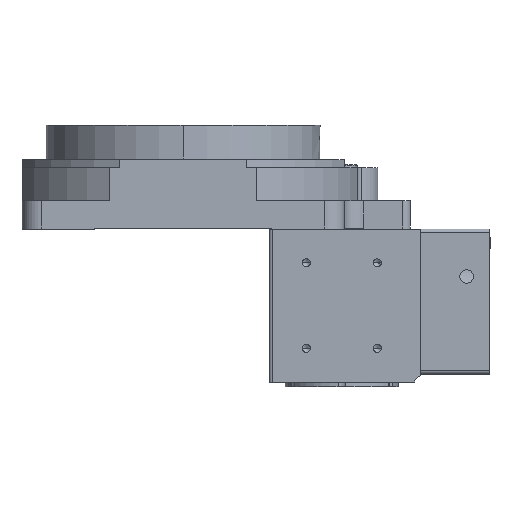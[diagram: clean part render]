
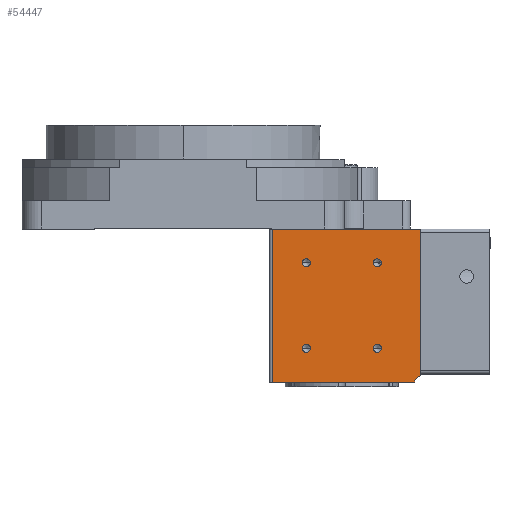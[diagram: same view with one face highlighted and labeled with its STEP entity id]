
A CAD part, left-side view. The second image highlights one B-rep face of the part: STEP entity #54447.
In plain terms, the highlighted planar face has unit normal (-1, 0, 0) as drawn and (0, 1, 0) by its records, which use the part's own axes.
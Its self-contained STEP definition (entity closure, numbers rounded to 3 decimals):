
#952 = ORIENTED_EDGE ( 'NONE', *, *, #28111, .F. ) ;
#1372 = CARTESIAN_POINT ( 'NONE',  ( -16.743, 29.514, 20.5 ) ) ;
#1504 = EDGE_CURVE ( 'NONE', #16750, #43295, #50282, .T. ) ;
#2556 = DIRECTION ( 'NONE',  ( 0., 0., 1. ) ) ;
#2773 = EDGE_CURVE ( 'NONE', #49916, #22614, #46120, .T. ) ;
#3115 = CARTESIAN_POINT ( 'NONE',  ( -37.743, 29.514, 94. ) ) ;
#3506 = EDGE_CURVE ( 'NONE', #6971, #10186, #27572, .T. ) ;
#3962 = AXIS2_PLACEMENT_3D ( 'NONE', #28954, #64930, #34130 ) ;
#4326 = LINE ( 'NONE', #50407, #16380 ) ;
#6145 = VECTOR ( 'NONE', #13203, 1000. ) ;
#6165 = CARTESIAN_POINT ( 'NONE',  ( -16.743, 29.514, 67. ) ) ;
#6367 = FACE_BOUND ( 'NONE', #56192, .T. ) ;
#6490 = EDGE_LOOP ( 'NONE', ( #31296, #35413 ) ) ;
#6971 = VERTEX_POINT ( 'NONE', #24464 ) ;
#7029 = ORIENTED_EDGE ( 'NONE', *, *, #14005, .F. ) ;
#7348 = CARTESIAN_POINT ( 'NONE',  ( -16.743, 29.514, 69.5 ) ) ;
#7706 = ORIENTED_EDGE ( 'NONE', *, *, #28801, .F. ) ;
#8002 = FACE_BOUND ( 'NONE', #35324, .T. ) ;
#8206 = DIRECTION ( 'NONE',  ( 1., 0., 0. ) ) ;
#9444 = DIRECTION ( 'NONE',  ( 0., 0., 1. ) ) ;
#10186 = VERTEX_POINT ( 'NONE', #1372 ) ;
#11343 = DIRECTION ( 'NONE',  ( 0., 0., 1. ) ) ;
#11710 = AXIS2_PLACEMENT_3D ( 'NONE', #50222, #19546, #55406 ) ;
#11923 = CARTESIAN_POINT ( 'NONE',  ( 36.257, 29.514, 67. ) ) ;
#11942 = CARTESIAN_POINT ( 'NONE',  ( -37.743, 29.514, 94. ) ) ;
#12149 = CARTESIAN_POINT ( 'NONE',  ( -16.743, 29.514, 23. ) ) ;
#12811 = ORIENTED_EDGE ( 'NONE', *, *, #1504, .F. ) ;
#13203 = DIRECTION ( 'NONE',  ( 0., 0., -1. ) ) ;
#13440 = VERTEX_POINT ( 'NONE', #41773 ) ;
#13845 = DIRECTION ( 'NONE',  ( 0., 1., 0. ) ) ;
#14005 = EDGE_CURVE ( 'NONE', #13440, #66194, #29249, .T. ) ;
#14889 = EDGE_LOOP ( 'NONE', ( #7706, #45117, #26603, #36113, #53136 ) ) ;
#15086 = CARTESIAN_POINT ( 'NONE',  ( -16.743, 29.514, 23. ) ) ;
#15482 = CARTESIAN_POINT ( 'NONE',  ( -16.743, 29.514, 64.5 ) ) ;
#16380 = VECTOR ( 'NONE', #9444, 1000. ) ;
#16604 = CIRCLE ( 'NONE', #30333, 2.5 ) ;
#16750 = VERTEX_POINT ( 'NONE', #37127 ) ;
#17099 = DIRECTION ( 'NONE',  ( 0., 0., -1. ) ) ;
#17116 = AXIS2_PLACEMENT_3D ( 'NONE', #12149, #17979, #39355 ) ;
#17932 = VERTEX_POINT ( 'NONE', #47350 ) ;
#17979 = DIRECTION ( 'NONE',  ( 0., 1., 0. ) ) ;
#18281 = CARTESIAN_POINT ( 'NONE',  ( -37.743, 29.514, 2. ) ) ;
#18863 = DIRECTION ( 'NONE',  ( 0., 1., 0. ) ) ;
#18933 = CARTESIAN_POINT ( 'NONE',  ( -33.844, 29.514, 94. ) ) ;
#18949 = VECTOR ( 'NONE', #54085, 1000. ) ;
#19546 = DIRECTION ( 'NONE',  ( 0., 1., 0. ) ) ;
#19987 = FACE_OUTER_BOUND ( 'NONE', #14889, .T. ) ;
#20224 = DIRECTION ( 'NONE',  ( 0., 0., 1. ) ) ;
#21493 = VERTEX_POINT ( 'NONE', #40999 ) ;
#22614 = VERTEX_POINT ( 'NONE', #18933 ) ;
#23203 = VECTOR ( 'NONE', #8206, 1000. ) ;
#23308 = DIRECTION ( 'NONE',  ( 0., 1., 0. ) ) ;
#23398 = ORIENTED_EDGE ( 'NONE', *, *, #64628, .F. ) ;
#24379 = EDGE_LOOP ( 'NONE', ( #25698, #23398 ) ) ;
#24464 = CARTESIAN_POINT ( 'NONE',  ( -16.743, 29.514, 25.5 ) ) ;
#25698 = ORIENTED_EDGE ( 'NONE', *, *, #3506, .F. ) ;
#26091 = CIRCLE ( 'NONE', #49771, 2.5 ) ;
#26491 = AXIS2_PLACEMENT_3D ( 'NONE', #54058, #23308, #59232 ) ;
#26603 = ORIENTED_EDGE ( 'NONE', *, *, #2773, .F. ) ;
#27572 = CIRCLE ( 'NONE', #17116, 2.5 ) ;
#28111 = EDGE_CURVE ( 'NONE', #43295, #16750, #31768, .T. ) ;
#28801 = EDGE_CURVE ( 'NONE', #47994, #21493, #47004, .T. ) ;
#28954 = CARTESIAN_POINT ( 'NONE',  ( -16.743, 29.514, 67. ) ) ;
#29249 = CIRCLE ( 'NONE', #35071, 2.5 ) ;
#30333 = AXIS2_PLACEMENT_3D ( 'NONE', #6165, #41943, #11343 ) ;
#31296 = ORIENTED_EDGE ( 'NONE', *, *, #64177, .F. ) ;
#31406 = CARTESIAN_POINT ( 'NONE',  ( -37.743, 29.514, 90.101 ) ) ;
#31535 = AXIS2_PLACEMENT_3D ( 'NONE', #11923, #18863, #40983 ) ;
#31768 = CIRCLE ( 'NONE', #26491, 2.5 ) ;
#33174 = DIRECTION ( 'NONE',  ( 0., 1., 0. ) ) ;
#34130 = DIRECTION ( 'NONE',  ( 0., 0., 1. ) ) ;
#35071 = AXIS2_PLACEMENT_3D ( 'NONE', #63971, #33174, #2556 ) ;
#35324 = EDGE_LOOP ( 'NONE', ( #55655, #7029 ) ) ;
#35413 = ORIENTED_EDGE ( 'NONE', *, *, #38696, .F. ) ;
#36113 = ORIENTED_EDGE ( 'NONE', *, *, #42833, .F. ) ;
#36727 = LINE ( 'NONE', #18281, #23203 ) ;
#37127 = CARTESIAN_POINT ( 'NONE',  ( 36.257, 29.514, 64.5 ) ) ;
#37687 = EDGE_CURVE ( 'NONE', #21493, #17932, #36727, .T. ) ;
#38696 = EDGE_CURVE ( 'NONE', #54803, #50308, #43936, .T. ) ;
#39323 = EDGE_CURVE ( 'NONE', #66194, #13440, #52709, .T. ) ;
#39355 = DIRECTION ( 'NONE',  ( 0., 0., 1. ) ) ;
#40983 = DIRECTION ( 'NONE',  ( 0., 0., 1. ) ) ;
#40999 = CARTESIAN_POINT ( 'NONE',  ( -37.743, 29.514, 2. ) ) ;
#41100 = CARTESIAN_POINT ( 'NONE',  ( 36.257, 29.514, 69.5 ) ) ;
#41345 = EDGE_CURVE ( 'NONE', #22614, #47994, #59027, .T. ) ;
#41773 = CARTESIAN_POINT ( 'NONE',  ( 36.257, 29.514, 20.5 ) ) ;
#41886 = PLANE ( 'NONE',  #62264 ) ;
#41943 = DIRECTION ( 'NONE',  ( 0., 1., 0. ) ) ;
#42833 = EDGE_CURVE ( 'NONE', #17932, #49916, #4326, .T. ) ;
#43295 = VERTEX_POINT ( 'NONE', #41100 ) ;
#43936 = CIRCLE ( 'NONE', #3962, 2.5 ) ;
#44473 = CARTESIAN_POINT ( 'NONE',  ( -38.743, 29.514, 95. ) ) ;
#45117 = ORIENTED_EDGE ( 'NONE', *, *, #41345, .F. ) ;
#45588 = FACE_BOUND ( 'NONE', #6490, .T. ) ;
#46120 = LINE ( 'NONE', #3115, #18949 ) ;
#47004 = LINE ( 'NONE', #49023, #6145 ) ;
#47350 = CARTESIAN_POINT ( 'NONE',  ( 57.257, 29.514, 2. ) ) ;
#47758 = DIRECTION ( 'NONE',  ( 0., -1., 0. ) ) ;
#47994 = VERTEX_POINT ( 'NONE', #31406 ) ;
#48346 = AXIS2_PLACEMENT_3D ( 'NONE', #44473, #13845, #49644 ) ;
#49023 = CARTESIAN_POINT ( 'NONE',  ( -37.743, 29.514, 94. ) ) ;
#49644 = DIRECTION ( 'NONE',  ( 0., 0., -1. ) ) ;
#49771 = AXIS2_PLACEMENT_3D ( 'NONE', #15086, #50892, #20224 ) ;
#49916 = VERTEX_POINT ( 'NONE', #53121 ) ;
#50222 = CARTESIAN_POINT ( 'NONE',  ( 36.257, 29.514, 23. ) ) ;
#50282 = CIRCLE ( 'NONE', #31535, 2.5 ) ;
#50308 = VERTEX_POINT ( 'NONE', #7348 ) ;
#50407 = CARTESIAN_POINT ( 'NONE',  ( 57.257, 29.514, 94. ) ) ;
#50892 = DIRECTION ( 'NONE',  ( 0., 1., 0. ) ) ;
#52709 = CIRCLE ( 'NONE', #11710, 2.5 ) ;
#53121 = CARTESIAN_POINT ( 'NONE',  ( 57.257, 29.514, 94. ) ) ;
#53136 = ORIENTED_EDGE ( 'NONE', *, *, #37687, .F. ) ;
#54058 = CARTESIAN_POINT ( 'NONE',  ( 36.257, 29.514, 67. ) ) ;
#54085 = DIRECTION ( 'NONE',  ( -1., 0., 0. ) ) ;
#54447 = ADVANCED_FACE ( 'NONE', ( #6367, #45588, #59331, #8002, #19987 ), #41886, .F. ) ;
#54803 = VERTEX_POINT ( 'NONE', #15482 ) ;
#55406 = DIRECTION ( 'NONE',  ( 0., 0., 1. ) ) ;
#55655 = ORIENTED_EDGE ( 'NONE', *, *, #39323, .F. ) ;
#56192 = EDGE_LOOP ( 'NONE', ( #952, #12811 ) ) ;
#59027 = CIRCLE ( 'NONE', #48346, 5. ) ;
#59232 = DIRECTION ( 'NONE',  ( 0., 0., 1. ) ) ;
#59331 = FACE_BOUND ( 'NONE', #24379, .T. ) ;
#62264 = AXIS2_PLACEMENT_3D ( 'NONE', #11942, #47758, #17099 ) ;
#62647 = CARTESIAN_POINT ( 'NONE',  ( 36.257, 29.514, 25.5 ) ) ;
#63971 = CARTESIAN_POINT ( 'NONE',  ( 36.257, 29.514, 23. ) ) ;
#64177 = EDGE_CURVE ( 'NONE', #50308, #54803, #16604, .T. ) ;
#64628 = EDGE_CURVE ( 'NONE', #10186, #6971, #26091, .T. ) ;
#64930 = DIRECTION ( 'NONE',  ( 0., 1., 0. ) ) ;
#66194 = VERTEX_POINT ( 'NONE', #62647 ) ;
